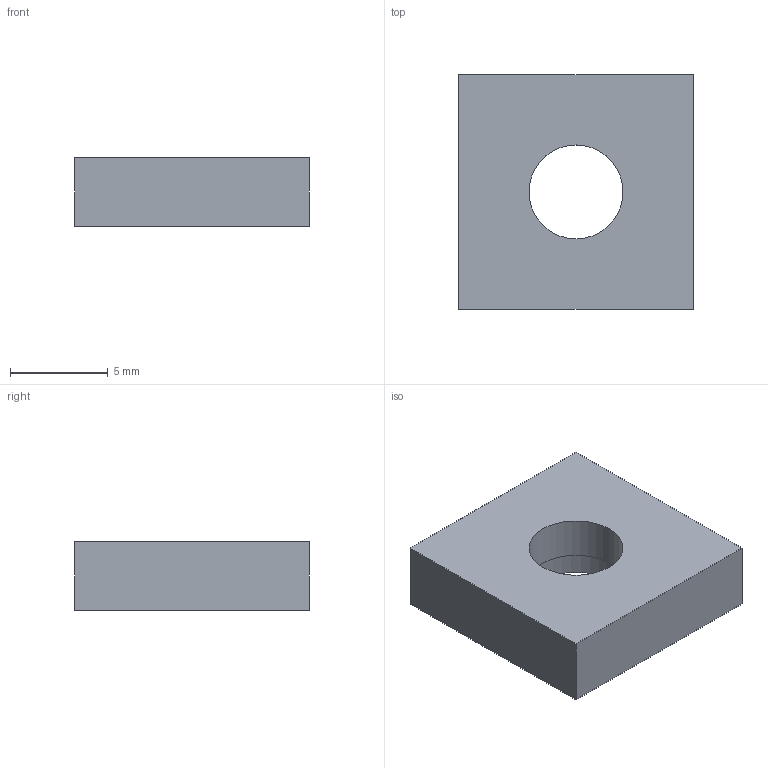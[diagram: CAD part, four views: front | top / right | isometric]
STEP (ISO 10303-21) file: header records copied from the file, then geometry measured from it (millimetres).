
FILE_DESCRIPTION(('Open CASCADE Model'),'2;1');
FILE_NAME('Open CASCADE Shape Model','2026-09-15T13:32:55',('Author'),( 'Open CASCADE'),'Open CASCADE STEP processor 7.7','Open CASCADE 7.7' ,'Unknown');
FILE_SCHEMA(('AUTOMOTIVE_DESIGN { 1 0 10303 214 1 1 1 1 }'));
Length unit declared in the file: millimetre
Products named in the file (1): QP04_LENS_FLANGE_D5.6
Bounding box: 12 x 12 x 3.5 mm (x, y, z)
Volume: 431.8 mm3; surface area: 476 mm2
Topology: 1 solids, 1 shells, 9 faces, 18 edges, 12 vertices
Faces by surface type: plane 7, cylinder 2
Full cylindrical faces by diameter (mm): 4.8 x1, 5.6 x1
Entity records: 484 total; most frequent: DIRECTION 78, CARTESIAN_POINT 76, LINE 46, VECTOR 46, ORIENTED_EDGE 36, PCURVE 36, DEFINITIONAL_REPRESENTATION 36, EDGE_CURVE 18
